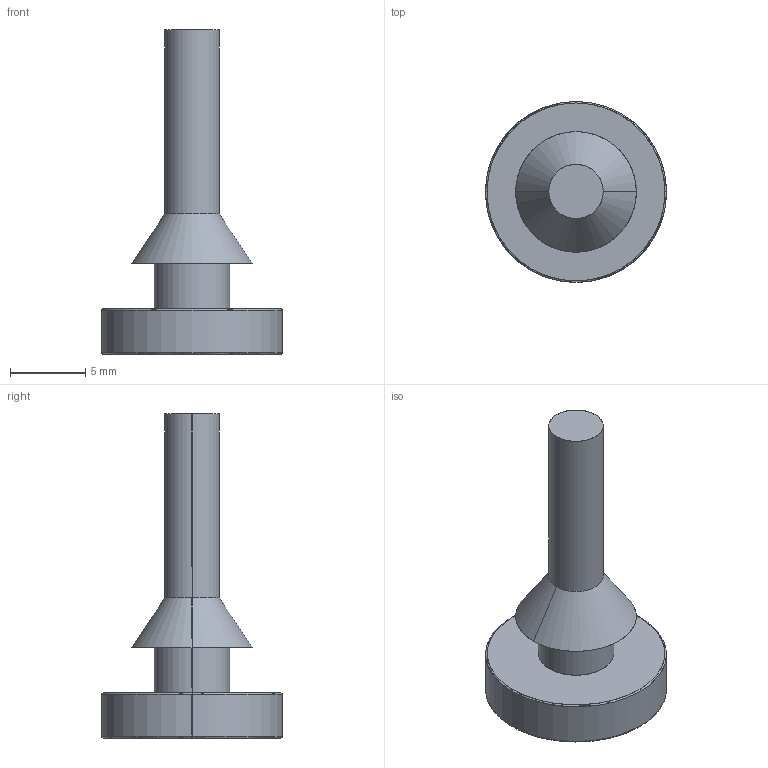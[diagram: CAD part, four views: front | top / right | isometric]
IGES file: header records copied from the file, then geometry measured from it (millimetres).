
Start section: SolidWorks IGES file using analytic representation for surfaces
Bounding box: 12 x 12 x 21.5 mm (x, y, z)
Surface area: 614.6 mm2 (no closed solid volume)
Topology: 0 solids, 0 shells, 16 faces, 240 edges, 240 vertices
Faces by surface type: bspline 8, revolution 8
